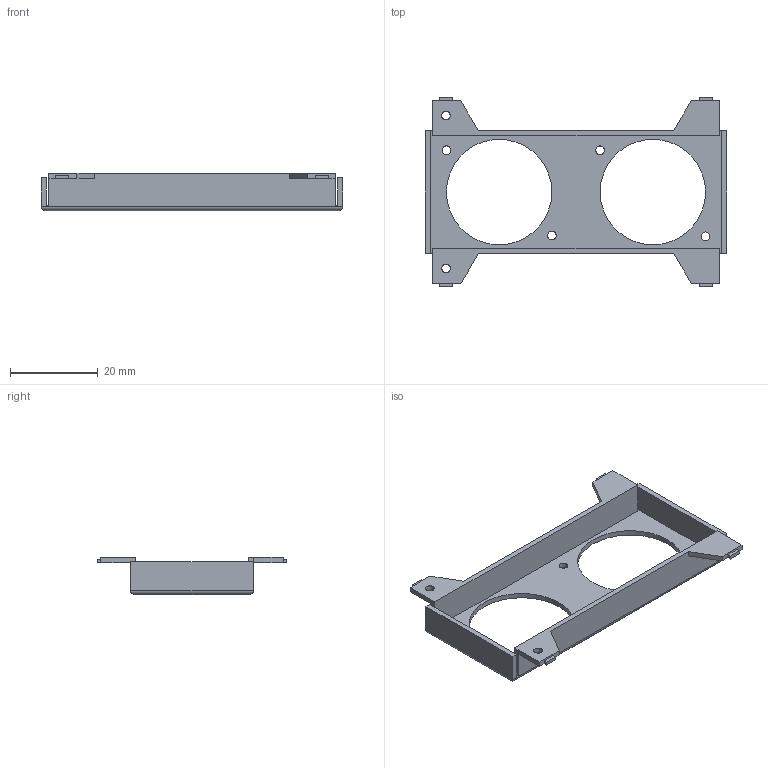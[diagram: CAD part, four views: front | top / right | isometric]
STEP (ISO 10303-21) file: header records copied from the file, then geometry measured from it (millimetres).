
FILE_DESCRIPTION(('FreeCAD Model'),'2;1');
FILE_NAME('Open CASCADE Shape Model','2026-07-27T10:18:25',(''),(''), 'Open CASCADE STEP processor 7.8','FreeCAD','Unknown');
FILE_SCHEMA(('AUTOMOTIVE_DESIGN { 1 0 10303 214 1 1 1 1 }'));
Length unit declared in the file: millimetre
Products named in the file (1): P-201791
Bounding box: 68.7 x 43.2 x 8.5 mm (x, y, z)
Volume: 3008.1 mm3; surface area: 5584.9 mm2
Topology: 1 solids, 1 shells, 59 faces, 167 edges, 110 vertices
Faces by surface type: plane 47, cylinder 12
Full cylindrical faces by diameter (mm): 2 x6, 24 x2
Entity records: 1943 total; most frequent: CARTESIAN_POINT 337, ORIENTED_EDGE 334, DIRECTION 307, EDGE_CURVE 167, LINE 147, VECTOR 147, VERTEX_POINT 110, AXIS2_PLACEMENT_3D 80
